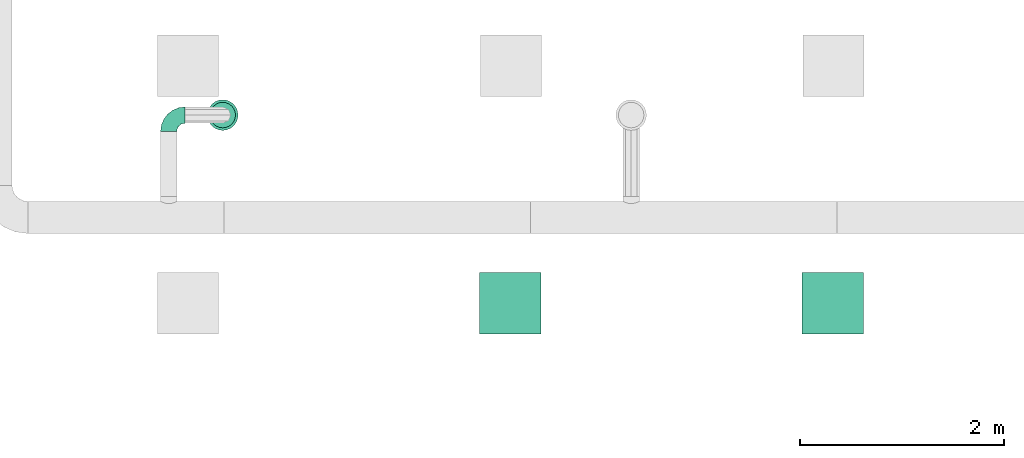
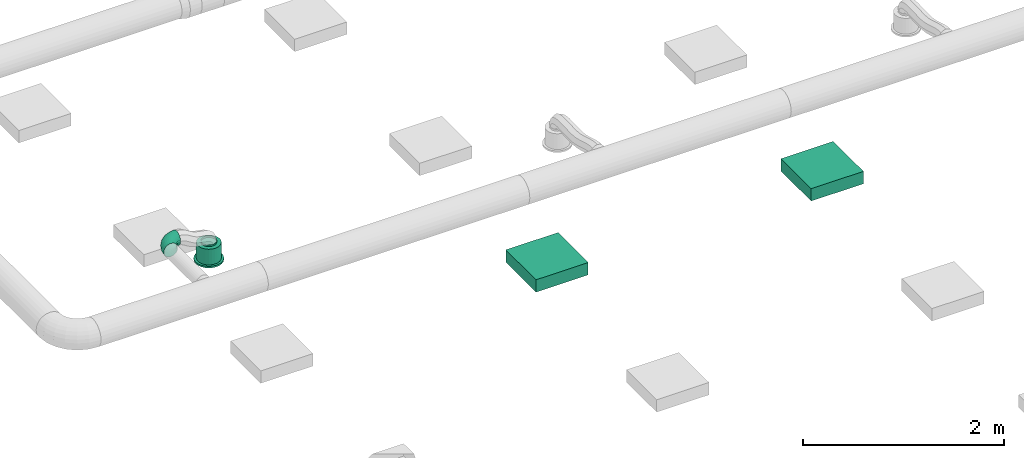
# One storey, part 22 of 119: 2 distribution elements, 1 flow fitting, 1 flow terminal.
"""IFC2X3 building model written with IfcOpenShell, lengths in metres."""

from ifc_helpers import new_model, si_unit, direction, frame, frame_2d, origin, place, context, subcontext, project, spatial, rectangle, extrude, open_shell, surface_model, source, transform, mapped, element, save


model = new_model("IFC2X3")

# Units and contexts
model_context = context("Model", 3, precision=1e-05, world=origin(), true_north=direction((-0.4480736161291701, 0.8939966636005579)))
body_context = subcontext(model_context, "Body", "Model", "MODEL_VIEW")
ifc_project = project(units=[si_unit("LENGTHUNIT", "METRE"), si_unit("AREAUNIT", "SQUARE_METRE"), si_unit("VOLUMEUNIT", "CUBIC_METRE"), si_unit("PLANEANGLEUNIT", "RADIAN"), si_unit("THERMODYNAMICTEMPERATUREUNIT", "KELVIN"), si_unit("MASSUNIT", "GRAM", prefix="KILO"), si_unit("TIMEUNIT", "SECOND")], contexts=[model_context])

# Site, building, storey
site_placement = place(None, origin())
site = spatial("IfcSite", under=ifc_project, at=site_placement, Name="Site 1", CompositionType="ELEMENT")
building_placement = place(site_placement, origin())
building = spatial("IfcBuilding", under=site, at=building_placement, Name="Undefined", CompositionType="ELEMENT")
storey_placement = place(building_placement, frame((0.0, 0.0, 5.4)))
storey = spatial("IfcBuildingStorey", under=building, at=storey_placement, Name="R+1", CompositionType="ELEMENT", Elevation=5.4)

# Flow terminal
shared_shape_1 = source(origin(), body_context, "Body", "SurfaceModel", [
    surface_model("IfcFaceBasedSurfaceModel", [(0.0, 0.0, 0.0), (0.03915785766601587, 0.0, 0.0), (0.03915785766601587, 0.020000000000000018, 0.0), (3.552713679e-15, 0.020000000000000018, 0.0), (0.07698144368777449, 0.0, -0.010134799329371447), (0.07698144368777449, 0.020000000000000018, -0.010134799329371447), (0.11089314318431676, 0.0, -0.02971372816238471), (0.11089314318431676, 0.020000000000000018, -0.02971372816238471), (0.13858192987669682, 0.0, -0.05740251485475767), (0.13858192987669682, 0.020000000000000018, -0.05740251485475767), (0.15816085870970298, 0.0, -0.09131421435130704), (0.15816085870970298, 0.020000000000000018, -0.09131421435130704), (0.16829565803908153, 0.0, -0.12913780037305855), (0.16829565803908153, 0.020000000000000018, -0.12913780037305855), (0.16829565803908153, 0.0, -0.16829565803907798), (0.16829565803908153, 0.020000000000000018, -0.16829565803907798), (0.15816085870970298, 0.0, -0.20611924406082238), (0.15816085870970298, 0.020000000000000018, -0.20611924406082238), (0.13858192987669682, 0.0, -0.24003094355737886), (0.13858192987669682, 0.020000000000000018, -0.24003094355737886), (0.11089314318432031, 0.0, -0.2677197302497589), (0.11089314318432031, 0.020000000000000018, -0.2677197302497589), (0.07698144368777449, 0.0, -0.2872986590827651), (0.07698144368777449, 0.020000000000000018, -0.2872986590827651), (0.039157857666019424, 0.0, -0.29743345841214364), (0.039157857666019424, 0.020000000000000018, -0.29743345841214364), (3.552713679e-15, 0.0, -0.29743345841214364), (3.552713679e-15, 0.020000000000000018, -0.29743345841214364), (-0.03782358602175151, 0.0, -0.2872986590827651), (-0.03782358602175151, 0.020000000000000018, -0.2872986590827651), (-0.07173528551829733, 0.0, -0.2677197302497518), (-0.07173528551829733, 0.020000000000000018, -0.2677197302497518), (-0.0994240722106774, 0.0, -0.24003094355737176), (-0.0994240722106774, 0.020000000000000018, -0.24003094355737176), (-0.11900300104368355, 0.0, -0.2061192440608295), (-0.11900300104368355, 0.020000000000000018, -0.2061192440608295), (-0.1291378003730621, 0.0, -0.16829565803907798), (-0.1291378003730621, 0.020000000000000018, -0.16829565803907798), (-0.1291378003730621, 0.0, -0.12913780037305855), (-0.1291378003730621, 0.020000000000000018, -0.12913780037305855), (-0.11900300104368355, 0.0, -0.09131421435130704), (-0.11900300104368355, 0.020000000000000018, -0.09131421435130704), (-0.0994240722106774, 0.0, -0.05740251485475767), (-0.0994240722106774, 0.020000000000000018, -0.05740251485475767), (-0.07173528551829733, 0.0, -0.029713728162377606), (-0.07173528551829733, 0.020000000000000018, -0.029713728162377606), (-0.03782358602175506, 0.0, -0.010134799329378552), (-0.03782358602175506, 0.020000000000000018, -0.010134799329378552), (0.019578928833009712, 0.0, -0.14871672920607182), (0.019578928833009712, 0.020000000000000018, -0.14871672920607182), (0.003263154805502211, 0.020000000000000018, -0.02478612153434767), (0.035894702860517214, 0.020000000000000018, -0.02478612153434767), (0.035894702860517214, 0.20999999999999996, -0.02478612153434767), (0.003263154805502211, 0.20999999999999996, -0.02478612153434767), (0.06741435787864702, 0.020000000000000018, -0.033231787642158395), (0.06741435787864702, 0.20999999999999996, -0.033231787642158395), (0.0956741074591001, 0.020000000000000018, -0.04954756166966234), (0.0956741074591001, 0.20999999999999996, -0.04954756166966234), (0.11874809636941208, 0.020000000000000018, -0.07262155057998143), (0.11874809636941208, 0.20999999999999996, -0.07262155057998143), (0.13506387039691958, 0.020000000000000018, -0.10088130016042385), (0.13506387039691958, 0.20999999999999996, -0.10088130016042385), (0.1435095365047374, 0.020000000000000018, -0.13240095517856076), (0.1435095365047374, 0.20999999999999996, -0.13240095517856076), (0.1435095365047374, 0.020000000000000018, -0.16503250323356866), (0.1435095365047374, 0.20999999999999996, -0.16503250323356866), (0.13506387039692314, 0.020000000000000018, -0.19655215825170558), (0.13506387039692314, 0.20999999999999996, -0.19655215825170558), (0.11874809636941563, 0.020000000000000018, -0.2248119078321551), (0.11874809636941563, 0.20999999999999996, -0.2248119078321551), (0.09567410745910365, 0.020000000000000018, -0.24788589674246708), (0.09567410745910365, 0.20999999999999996, -0.24788589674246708), (0.06741435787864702, 0.020000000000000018, -0.26420167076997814), (0.06741435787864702, 0.20999999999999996, -0.26420167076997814), (0.035894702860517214, 0.020000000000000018, -0.27264733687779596), (0.035894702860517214, 0.20999999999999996, -0.27264733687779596), (0.0032631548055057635, 0.020000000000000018, -0.27264733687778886), (0.0032631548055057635, 0.20999999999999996, -0.27264733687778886), (-0.028256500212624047, 0.020000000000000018, -0.26420167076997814), (-0.028256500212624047, 0.20999999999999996, -0.26420167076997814), (-0.05651624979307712, 0.020000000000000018, -0.2478858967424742), (-0.05651624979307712, 0.20999999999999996, -0.2478858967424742), (-0.07959023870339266, 0.020000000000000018, -0.2248119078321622), (-0.07959023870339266, 0.20999999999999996, -0.2248119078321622), (-0.09590601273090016, 0.020000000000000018, -0.19655215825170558), (-0.09590601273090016, 0.20999999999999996, -0.19655215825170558), (-0.10435167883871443, 0.020000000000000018, -0.16503250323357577), (-0.10435167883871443, 0.20999999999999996, -0.16503250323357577), (-0.10435167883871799, 0.020000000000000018, -0.13240095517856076), (-0.10435167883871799, 0.20999999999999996, -0.13240095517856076), (-0.09590601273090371, 0.020000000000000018, -0.10088130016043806), (-0.09590601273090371, 0.20999999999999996, -0.10088130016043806), (-0.07959023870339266, 0.020000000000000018, -0.07262155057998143), (-0.07959023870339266, 0.20999999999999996, -0.07262155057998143), (-0.056516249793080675, 0.020000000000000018, -0.04954756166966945), (-0.056516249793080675, 0.20999999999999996, -0.04954756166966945), (-0.028256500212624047, 0.020000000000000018, -0.033231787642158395), (-0.028256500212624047, 0.20999999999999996, -0.033231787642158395), (0.019578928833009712, 0.20999999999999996, -0.14871672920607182), (0.009136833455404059, 0.20999999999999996, -0.06940114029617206), (0.030021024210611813, 0.20999999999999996, -0.06940114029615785), (0.030021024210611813, 0.22999999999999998, -0.06940114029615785), (0.009136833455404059, 0.22999999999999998, -0.06940114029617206), (0.05019360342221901, 0.20999999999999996, -0.07480636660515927), (0.05019360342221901, 0.22999999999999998, -0.07480636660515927), (0.06827984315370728, 0.20999999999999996, -0.08524846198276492), (0.06827984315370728, 0.22999999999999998, -0.08524846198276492), (0.0830471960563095, 0.20999999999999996, -0.10001581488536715), (0.0830471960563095, 0.22999999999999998, -0.10001581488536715), (0.0934892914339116, 0.20999999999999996, -0.11810205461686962), (0.0934892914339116, 0.22999999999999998, -0.11810205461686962), (0.09889451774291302, 0.20999999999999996, -0.13827463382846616), (0.09889451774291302, 0.22999999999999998, -0.13827463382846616), (0.09889451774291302, 0.20999999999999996, -0.15915882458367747), (0.09889451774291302, 0.22999999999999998, -0.15915882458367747), (0.09348929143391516, 0.20999999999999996, -0.179331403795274), (0.09348929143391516, 0.22999999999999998, -0.179331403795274), (0.0830471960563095, 0.20999999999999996, -0.19741764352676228), (0.0830471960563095, 0.22999999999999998, -0.19741764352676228), (0.06827984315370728, 0.20999999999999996, -0.2121849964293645), (0.06827984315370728, 0.22999999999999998, -0.2121849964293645), (0.05019360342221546, 0.20999999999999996, -0.22262709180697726), (0.05019360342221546, 0.22999999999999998, -0.22262709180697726), (0.030021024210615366, 0.20999999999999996, -0.22803231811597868), (0.030021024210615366, 0.22999999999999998, -0.22803231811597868), (0.009136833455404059, 0.20999999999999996, -0.22803231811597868), (0.009136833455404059, 0.22999999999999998, -0.22803231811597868), (-0.011035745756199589, 0.20999999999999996, -0.22262709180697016), (-0.011035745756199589, 0.22999999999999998, -0.22262709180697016), (-0.0291219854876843, 0.20999999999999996, -0.2121849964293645), (-0.0291219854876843, 0.22999999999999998, -0.2121849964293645), (-0.043889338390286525, 0.20999999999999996, -0.19741764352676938), (-0.043889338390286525, 0.22999999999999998, -0.19741764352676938), (-0.05433143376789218, 0.20999999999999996, -0.17933140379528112), (-0.05433143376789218, 0.22999999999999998, -0.17933140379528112), (-0.05973666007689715, 0.20999999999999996, -0.15915882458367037), (-0.05973666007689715, 0.22999999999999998, -0.15915882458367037), (-0.0597366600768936, 0.20999999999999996, -0.13827463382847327), (-0.0597366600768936, 0.22999999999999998, -0.13827463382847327), (-0.05433143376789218, 0.20999999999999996, -0.11810205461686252), (-0.05433143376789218, 0.22999999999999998, -0.11810205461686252), (-0.043889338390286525, 0.20999999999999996, -0.10001581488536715), (-0.043889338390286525, 0.22999999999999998, -0.10001581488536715), (-0.02912198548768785, 0.20999999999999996, -0.08524846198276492), (-0.02912198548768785, 0.22999999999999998, -0.08524846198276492), (-0.011035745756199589, 0.20999999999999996, -0.07480636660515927), (-0.011035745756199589, 0.22999999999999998, -0.07480636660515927)], [open_shell([[[0, 1, 2, 3]], [[1, 4, 5, 2]], [[4, 6, 7, 5]], [[6, 8, 9, 7]], [[8, 10, 11, 9]], [[10, 12, 13, 11]], [[12, 14, 15, 13]], [[14, 16, 17, 15]], [[16, 18, 19, 17]], [[18, 20, 21, 19]], [[20, 22, 23, 21]], [[22, 24, 25, 23]], [[24, 26, 27, 25]], [[26, 28, 29, 27]], [[28, 30, 31, 29]], [[30, 32, 33, 31]], [[32, 34, 35, 33]], [[34, 36, 37, 35]], [[36, 38, 39, 37]], [[38, 40, 41, 39]], [[40, 42, 43, 41]], [[42, 44, 45, 43]], [[44, 46, 47, 45]], [[46, 0, 3, 47]], [[48, 1, 0]], [[48, 4, 1]], [[48, 6, 4]], [[48, 8, 6]], [[48, 10, 8]], [[48, 12, 10]], [[48, 14, 12]], [[48, 16, 14]], [[48, 18, 16]], [[48, 20, 18]], [[48, 22, 20]], [[48, 24, 22]], [[48, 26, 24]], [[48, 28, 26]], [[48, 30, 28]], [[48, 32, 30]], [[48, 34, 32]], [[48, 36, 34]], [[48, 38, 36]], [[48, 40, 38]], [[48, 42, 40]], [[48, 44, 42]], [[48, 46, 44]], [[48, 0, 46]], [[49, 47, 3]], [[49, 45, 47]], [[49, 43, 45]], [[49, 41, 43]], [[49, 39, 41]], [[49, 37, 39]], [[49, 35, 37]], [[49, 33, 35]], [[49, 31, 33]], [[49, 29, 31]], [[49, 27, 29]], [[49, 25, 27]], [[49, 23, 25]], [[49, 21, 23]], [[49, 19, 21]], [[49, 17, 19]], [[49, 15, 17]], [[49, 13, 15]], [[49, 11, 13]], [[49, 9, 11]], [[49, 7, 9]], [[49, 5, 7]], [[49, 2, 5]], [[49, 3, 2]], [[50, 51, 52, 53]], [[51, 54, 55, 52]], [[54, 56, 57, 55]], [[56, 58, 59, 57]], [[58, 60, 61, 59]], [[60, 62, 63, 61]], [[62, 64, 65, 63]], [[64, 66, 67, 65]], [[66, 68, 69, 67]], [[68, 70, 71, 69]], [[70, 72, 73, 71]], [[72, 74, 75, 73]], [[74, 76, 77, 75]], [[76, 78, 79, 77]], [[78, 80, 81, 79]], [[80, 82, 83, 81]], [[82, 84, 85, 83]], [[84, 86, 87, 85]], [[86, 88, 89, 87]], [[88, 90, 91, 89]], [[90, 92, 93, 91]], [[92, 94, 95, 93]], [[94, 96, 97, 95]], [[96, 50, 53, 97]], [[49, 51, 50]], [[49, 54, 51]], [[49, 56, 54]], [[49, 58, 56]], [[49, 60, 58]], [[49, 62, 60]], [[49, 64, 62]], [[49, 66, 64]], [[49, 68, 66]], [[49, 70, 68]], [[49, 72, 70]], [[49, 74, 72]], [[49, 76, 74]], [[49, 78, 76]], [[49, 80, 78]], [[49, 82, 80]], [[49, 84, 82]], [[49, 86, 84]], [[49, 88, 86]], [[49, 90, 88]], [[49, 92, 90]], [[49, 94, 92]], [[49, 96, 94]], [[49, 50, 96]], [[98, 97, 53]], [[98, 95, 97]], [[98, 93, 95]], [[98, 91, 93]], [[98, 89, 91]], [[98, 87, 89]], [[98, 85, 87]], [[98, 83, 85]], [[98, 81, 83]], [[98, 79, 81]], [[98, 77, 79]], [[98, 75, 77]], [[98, 73, 75]], [[98, 71, 73]], [[98, 69, 71]], [[98, 67, 69]], [[98, 65, 67]], [[98, 63, 65]], [[98, 61, 63]], [[98, 59, 61]], [[98, 57, 59]], [[98, 55, 57]], [[98, 52, 55]], [[98, 53, 52]], [[99, 100, 101, 102]], [[100, 103, 104, 101]], [[103, 105, 106, 104]], [[105, 107, 108, 106]], [[107, 109, 110, 108]], [[109, 111, 112, 110]], [[111, 113, 114, 112]], [[113, 115, 116, 114]], [[115, 117, 118, 116]], [[117, 119, 120, 118]], [[119, 121, 122, 120]], [[121, 123, 124, 122]], [[123, 125, 126, 124]], [[125, 127, 128, 126]], [[127, 129, 130, 128]], [[129, 131, 132, 130]], [[131, 133, 134, 132]], [[133, 135, 136, 134]], [[135, 137, 138, 136]], [[137, 139, 140, 138]], [[139, 141, 142, 140]], [[141, 143, 144, 142]], [[143, 145, 146, 144]], [[145, 99, 102, 146]]])]),
])
flow_terminal_placement = place(storey_placement, origin())
element("IfcFlowTerminal", 1, at=flow_terminal_placement, inside=storey, Name="Air diffuseur - bouche", ObjectType="Air diffuseur - bouche", context=body_context, shape_type="MappedRepresentation", body=[
    mapped(shared_shape_1, transform((36.292700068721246, 16.804996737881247, 2.38), x_axis=(0.9914448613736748, 0.13052619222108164, 0.0), y_axis=(0.0, 0.0, 1.0), z_axis=(0.13052619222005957, -0.9914448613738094, 0.0))),
])

# Flow fitting
shared_shape_2 = source(origin(), body_context, "Body", "SurfaceModel", [
    surface_model("IfcFaceBasedSurfaceModel", [(0.06265257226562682, -8.8817842e-16, 0.0), (0.062296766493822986, 0.02088115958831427, -7.105427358e-15), (0.0003558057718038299, 0.020881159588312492, 7.105427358e-15), (0.0, 0.0, 0.0), (-0.059474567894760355, 0.022956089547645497, -0.015896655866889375), (-0.06051773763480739, 0.002098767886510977, -0.01607928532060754), (-0.11311701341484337, 0.02696454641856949, -0.04660663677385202), (-0.11477645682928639, 0.006153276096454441, -0.04714207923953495), (-0.15691588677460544, 0.0326333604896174, -0.09003710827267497), (-0.15907851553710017, 0.01188721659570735, -0.09107150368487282), (-0.18788636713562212, 0.03957621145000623, -0.14322835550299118), (-0.1904048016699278, 0.01890983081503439, -0.14487384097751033), (-0.2039178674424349, 0.04731995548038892, -0.20255548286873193), (-0.20662048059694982, 0.026742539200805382, -0.20488255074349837), (0.061253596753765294, 0.04103889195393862, -0.0053597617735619), (0.0013989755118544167, 0.04103889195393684, -0.005359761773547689), (-0.05641614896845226, 0.04304393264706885, -0.02072097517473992), (-0.10825177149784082, 0.04691737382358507, -0.050396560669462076), (-0.15057538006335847, 0.05239524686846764, -0.09236417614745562), (-0.18050269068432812, 0.05910424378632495, -0.14376379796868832), (-0.19599420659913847, 0.06658715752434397, -0.20109262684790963), (0.05959415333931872, 0.05909948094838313, -0.01571402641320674), (0.003058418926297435, 0.05909948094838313, -0.01571402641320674), (-0.05155090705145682, 0.06099334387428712, -0.030223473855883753), (-0.10051228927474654, 0.06465200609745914, -0.058253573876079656), (-0.1404890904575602, 0.0698261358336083, -0.09789412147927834), (-0.16875695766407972, 0.0761631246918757, -0.14644367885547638), (-0.18338948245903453, 0.08323111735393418, -0.2005936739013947), (0.057431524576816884, 0.07383212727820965, -0.030357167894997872), (0.005221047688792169, 0.07383212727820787, -0.03035716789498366), (-0.0452104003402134, 0.07558110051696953, -0.04375657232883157), (-0.09042599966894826, 0.07895985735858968, -0.06964223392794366), (-0.12734438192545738, 0.08373814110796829, -0.10625008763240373), (-0.15344962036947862, 0.08959031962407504, -0.15108536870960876), (-0.16696268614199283, 0.0961175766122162, -0.20109262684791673), (0.054913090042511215, 0.0842328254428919, -0.048291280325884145), (0.007739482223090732, 0.08423282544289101, -0.04829128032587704), (-0.037826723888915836, 0.08581307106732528, -0.06039801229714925), (-0.07868026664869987, 0.08886587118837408, -0.08378642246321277), (-0.11203704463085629, 0.09318318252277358, -0.11686262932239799), (-0.13562384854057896, 0.09847078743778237, -0.1573725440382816), (-0.14783327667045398, 0.10436834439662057, -0.20255548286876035), (0.05221047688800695, 0.0895927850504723, -0.06829418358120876), (0.010442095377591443, 0.08959278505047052, -0.06829418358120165), (-0.029903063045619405, 0.09099196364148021, -0.07901370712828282), (-0.06607554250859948, 0.09369496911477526, -0.0997222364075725), (-0.0956102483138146, 0.0975175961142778, -0.12900851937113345), (-0.11649443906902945, 0.10219933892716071, -0.16487674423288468), (-0.12730489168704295, 0.1074211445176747, -0.2048825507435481), (0.04950786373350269, 0.08954673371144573, -0.08900271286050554), (0.013144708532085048, 0.08954673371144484, -0.08900271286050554), (-0.02197940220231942, 0.09076484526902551, -0.09833502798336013), (-0.05347081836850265, 0.09311805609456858, -0.11636367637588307), (-0.0791834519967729, 0.09644599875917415, -0.14186003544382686), (-0.09736502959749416, 0.10052187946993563, -0.17308657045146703), (-0.10677650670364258, 0.1050679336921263, -0.20791524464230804), (0.04698942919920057, 0.08409780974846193, -0.10900561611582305), (0.015663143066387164, 0.08409780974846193, -0.10900561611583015), (-0.014595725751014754, 0.08514719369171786, -0.11704525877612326), (-0.0417250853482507, 0.0871744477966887, -0.13257665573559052), (-0.06387611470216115, 0.09004141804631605, -0.15454136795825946), (-0.07953925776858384, 0.09355272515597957, -0.1814425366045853), (-0.08764709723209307, 0.09746907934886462, -0.21144689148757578), (0.04482680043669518, 0.0736173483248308, -0.12693972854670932), (0.017825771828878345, 0.0736173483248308, -0.12693972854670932), (-0.008255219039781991, 0.07452184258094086, -0.13386932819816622), (-0.03163879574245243, 0.0762691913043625, -0.14725628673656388), (-0.050731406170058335, 0.07874031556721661, -0.1661883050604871), (-0.06423192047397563, 0.08176681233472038, -0.18937519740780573), (-0.07122030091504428, 0.08514243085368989, -0.21523681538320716), (0.04316735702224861, 0.058819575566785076, -0.14158287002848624), (0.019485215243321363, 0.058819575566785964, -0.14158287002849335), (-0.0033899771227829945, 0.05961289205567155, -0.14766070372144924), (-0.02389931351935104, 0.06114546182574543, -0.15940217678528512), (-0.04064511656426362, 0.06331284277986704, -0.17600712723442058), (-0.052486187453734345, 0.06596733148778, -0.19634395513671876), (-0.05861557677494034, 0.06892802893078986, -0.2190267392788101), (0.04212418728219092, 0.040712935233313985, -0.15193713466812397), (0.020528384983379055, 0.040712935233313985, -0.15193713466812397), (-0.0003315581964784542, 0.041436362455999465, -0.15747952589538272), (-0.019034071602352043, 0.04283391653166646, -0.16818660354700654), (-0.03430460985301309, 0.04481035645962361, -0.1833286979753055), (-0.04510251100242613, 0.047230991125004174, -0.20187390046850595), (-0.05069191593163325, 0.04993085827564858, -0.22255838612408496), (0.04176838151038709, 0.02053136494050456, -0.15729689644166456), (0.020884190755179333, 0.02053136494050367, -0.15729689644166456), (0.0007116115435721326, 0.021230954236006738, -0.16265665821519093), (-0.017374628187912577, 0.022582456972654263, -0.17301092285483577), (-0.03214198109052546, 0.024493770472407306, -0.1876540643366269), (-0.042584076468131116, 0.026834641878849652, -0.20558817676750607), (-0.04798930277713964, 0.02944554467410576, -0.22559108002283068), (0.04212418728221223, -0.000349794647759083, -0.15729689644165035), (0.020528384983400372, -0.000349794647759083, -0.15729689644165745), (-0.0003315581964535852, 0.00037363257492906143, -0.1628392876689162), (-0.019034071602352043, 0.0017711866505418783, -0.17354636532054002), (-0.03430460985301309, 0.0037476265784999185, -0.18868845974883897), (-0.04510251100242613, 0.00616826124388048, -0.20723366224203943), (-0.05069191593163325, 0.008868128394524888, -0.22791814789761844), (0.04316735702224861, -0.020507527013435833, -0.15193713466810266), (0.019485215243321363, -0.020507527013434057, -0.15193713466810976), (-0.0033899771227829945, -0.019714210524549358, -0.15801496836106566), (-0.02389931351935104, -0.01818164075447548, -0.16975644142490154), (-0.04064511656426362, -0.01601425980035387, -0.186361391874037), (-0.052486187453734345, -0.013359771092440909, -0.20669821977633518), (-0.05861557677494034, -0.010399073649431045, -0.22938100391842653), (0.04482680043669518, -0.03856811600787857, -0.1415828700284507), (0.017825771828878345, -0.03856811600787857, -0.1415828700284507), (-0.008255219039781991, -0.03766362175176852, -0.1485124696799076), (-0.03163879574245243, -0.03591627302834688, -0.16189942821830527), (-0.050731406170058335, -0.03344514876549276, -0.1808314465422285), (-0.06423192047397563, -0.030418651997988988, -0.20401833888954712), (-0.07122030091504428, -0.027043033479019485, -0.22987995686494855), (0.04698942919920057, -0.05330076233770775, -0.12693972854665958), (0.015663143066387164, -0.05330076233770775, -0.12693972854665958), (-0.014595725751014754, -0.05225137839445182, -0.1349793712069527), (-0.0417250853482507, -0.05022412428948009, -0.15051076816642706), (-0.06387611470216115, -0.047357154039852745, -0.172475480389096), (-0.07953925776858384, -0.043845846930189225, -0.19937664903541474), (-0.08764709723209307, -0.03992949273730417, -0.2293810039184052), (0.04950786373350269, -0.06370146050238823, -0.10900561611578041), (0.013144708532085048, -0.06370146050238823, -0.10900561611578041), (-0.02197940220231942, -0.06248334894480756, -0.11833793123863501), (-0.05347081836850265, -0.06013013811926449, -0.13636657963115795), (-0.0791834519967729, -0.05680219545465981, -0.16186293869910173), (-0.09736502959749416, -0.05272631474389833, -0.1930894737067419), (-0.10677650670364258, -0.04818026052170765, -0.2279181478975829), (0.05221047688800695, -0.06906142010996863, -0.08900271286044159), (0.010442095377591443, -0.06906142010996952, -0.08900271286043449), (-0.029903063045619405, -0.06766224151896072, -0.09972223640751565), (-0.06607554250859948, -0.06495923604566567, -0.12043076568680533), (-0.0956102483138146, -0.06113660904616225, -0.14971704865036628), (-0.11649443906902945, -0.05645486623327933, -0.1855852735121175), (-0.12730489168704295, -0.05123306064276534, -0.22559108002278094), (0.054913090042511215, -0.06901536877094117, -0.06829418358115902), (0.007739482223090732, -0.06901536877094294, -0.06829418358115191), (-0.037826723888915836, -0.06743512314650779, -0.08040091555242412), (-0.07868026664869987, -0.06438232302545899, -0.10378932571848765), (-0.11203704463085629, -0.06006501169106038, -0.13686553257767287), (-0.13562384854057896, -0.0547774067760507, -0.17737544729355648), (-0.14783327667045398, -0.04887984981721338, -0.22255838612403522), (0.057431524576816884, -0.06356644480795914, -0.0482912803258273), (0.005221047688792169, -0.06356644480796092, -0.04829128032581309), (-0.0452104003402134, -0.061817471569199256, -0.0616906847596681), (-0.09042599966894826, -0.05843871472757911, -0.0875763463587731), (-0.12734438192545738, -0.05366043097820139, -0.12418420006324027), (-0.15344962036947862, -0.04780825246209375, -0.1690194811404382), (-0.16696268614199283, -0.041280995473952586, -0.21902673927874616), (0.05959415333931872, -0.05308598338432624, -0.030357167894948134), (0.003058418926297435, -0.05308598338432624, -0.030357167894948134), (-0.05155090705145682, -0.05119212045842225, -0.04486661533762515), (-0.10051228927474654, -0.04753345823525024, -0.07289671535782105), (-0.1404890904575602, -0.04235932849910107, -0.11253726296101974), (-0.16875695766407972, -0.03602233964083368, -0.16108682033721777), (-0.18338948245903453, -0.02895434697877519, -0.2152368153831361), (0.061253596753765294, -0.03828821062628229, -0.015714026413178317), (0.0013989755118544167, -0.03828821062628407, -0.015714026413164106), (-0.05641614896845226, -0.03628316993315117, -0.031075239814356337), (-0.10825177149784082, -0.03240972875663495, -0.06075082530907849), (-0.15057538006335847, -0.026931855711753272, -0.10271844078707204), (-0.18050269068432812, -0.02022285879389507, -0.15411806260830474), (-0.19599420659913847, -0.012739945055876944, -0.21144689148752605), (0.062296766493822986, -0.020181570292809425, -0.005359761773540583), (0.0003558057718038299, -0.020181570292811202, -0.0053597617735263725), (-0.059474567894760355, -0.018106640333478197, -0.021256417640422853), (-0.11311701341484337, -0.014098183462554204, -0.051966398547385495), (-0.15691588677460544, -0.00842936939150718, -0.09539687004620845), (-0.18788636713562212, -0.0014865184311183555, -0.14858811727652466), (-0.2039178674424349, 0.006257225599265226, -0.2079152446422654)], [open_shell([[[0, 1, 2, 3]], [[3, 2, 4, 5]], [[5, 4, 6, 7]], [[7, 6, 8, 9]], [[9, 8, 10, 11]], [[11, 10, 12, 13]], [[1, 14, 15, 2]], [[2, 15, 16, 4]], [[4, 16, 17, 6]], [[6, 17, 18, 8]], [[8, 18, 19, 10]], [[10, 19, 20, 12]], [[14, 21, 22, 15]], [[15, 22, 23, 16]], [[16, 23, 24, 17]], [[17, 24, 25, 18]], [[18, 25, 26, 19]], [[19, 26, 27, 20]], [[21, 28, 29, 22]], [[22, 29, 30, 23]], [[23, 30, 31, 24]], [[24, 31, 32, 25]], [[25, 32, 33, 26]], [[26, 33, 34, 27]], [[28, 35, 36, 29]], [[29, 36, 37, 30]], [[30, 37, 38, 31]], [[31, 38, 39, 32]], [[32, 39, 40, 33]], [[33, 40, 41, 34]], [[35, 42, 43, 36]], [[36, 43, 44, 37]], [[37, 44, 45, 38]], [[38, 45, 46, 39]], [[39, 46, 47, 40]], [[40, 47, 48, 41]], [[42, 49, 50, 43]], [[43, 50, 51, 44]], [[44, 51, 52, 45]], [[45, 52, 53, 46]], [[46, 53, 54, 47]], [[47, 54, 55, 48]], [[49, 56, 57, 50]], [[50, 57, 58, 51]], [[51, 58, 59, 52]], [[52, 59, 60, 53]], [[53, 60, 61, 54]], [[54, 61, 62, 55]], [[56, 63, 64, 57]], [[57, 64, 65, 58]], [[58, 65, 66, 59]], [[59, 66, 67, 60]], [[60, 67, 68, 61]], [[61, 68, 69, 62]], [[63, 70, 71, 64]], [[64, 71, 72, 65]], [[65, 72, 73, 66]], [[66, 73, 74, 67]], [[67, 74, 75, 68]], [[68, 75, 76, 69]], [[70, 77, 78, 71]], [[71, 78, 79, 72]], [[72, 79, 80, 73]], [[73, 80, 81, 74]], [[74, 81, 82, 75]], [[75, 82, 83, 76]], [[77, 84, 85, 78]], [[78, 85, 86, 79]], [[79, 86, 87, 80]], [[80, 87, 88, 81]], [[81, 88, 89, 82]], [[82, 89, 90, 83]], [[84, 91, 92, 85]], [[85, 92, 93, 86]], [[86, 93, 94, 87]], [[87, 94, 95, 88]], [[88, 95, 96, 89]], [[89, 96, 97, 90]], [[91, 98, 99, 92]], [[92, 99, 100, 93]], [[93, 100, 101, 94]], [[94, 101, 102, 95]], [[95, 102, 103, 96]], [[96, 103, 104, 97]], [[98, 105, 106, 99]], [[99, 106, 107, 100]], [[100, 107, 108, 101]], [[101, 108, 109, 102]], [[102, 109, 110, 103]], [[103, 110, 111, 104]], [[105, 112, 113, 106]], [[106, 113, 114, 107]], [[107, 114, 115, 108]], [[108, 115, 116, 109]], [[109, 116, 117, 110]], [[110, 117, 118, 111]], [[112, 119, 120, 113]], [[113, 120, 121, 114]], [[114, 121, 122, 115]], [[115, 122, 123, 116]], [[116, 123, 124, 117]], [[117, 124, 125, 118]], [[119, 126, 127, 120]], [[120, 127, 128, 121]], [[121, 128, 129, 122]], [[122, 129, 130, 123]], [[123, 130, 131, 124]], [[124, 131, 132, 125]], [[126, 133, 134, 127]], [[127, 134, 135, 128]], [[128, 135, 136, 129]], [[129, 136, 137, 130]], [[130, 137, 138, 131]], [[131, 138, 139, 132]], [[133, 140, 141, 134]], [[134, 141, 142, 135]], [[135, 142, 143, 136]], [[136, 143, 144, 137]], [[137, 144, 145, 138]], [[138, 145, 146, 139]], [[140, 147, 148, 141]], [[141, 148, 149, 142]], [[142, 149, 150, 143]], [[143, 150, 151, 144]], [[144, 151, 152, 145]], [[145, 152, 153, 146]], [[147, 154, 155, 148]], [[148, 155, 156, 149]], [[149, 156, 157, 150]], [[150, 157, 158, 151]], [[151, 158, 159, 152]], [[152, 159, 160, 153]], [[154, 161, 162, 155]], [[155, 162, 163, 156]], [[156, 163, 164, 157]], [[157, 164, 165, 158]], [[158, 165, 166, 159]], [[159, 166, 167, 160]], [[161, 0, 3, 162]], [[162, 3, 5, 163]], [[163, 5, 7, 164]], [[164, 7, 9, 165]], [[165, 9, 11, 166]], [[166, 11, 13, 167]]])]),
])
flow_fitting_placement = place(storey_placement, origin())
element("IfcFlowFitting", 2, at=flow_fitting_placement, inside=storey, Name="Coude", ObjectType="Coude", context=body_context, shape_type="MappedRepresentation", body=[
    mapped(shared_shape_2, transform((35.692036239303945, 16.857113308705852, 2.775), x_axis=(-0.13052619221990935, -0.9914448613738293, 0.0), y_axis=(0.12832103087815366, -0.01689378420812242, 0.9915887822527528), z_axis=(-0.9831056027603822, 0.12942830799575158, 0.129428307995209))),
])

# Distribution elements
distribution_element_1_placement = place(storey_placement, origin())
element("IfcDistributionElement", 3, at=distribution_element_1_placement, inside=storey, Name="Decken-Rechteckleuchte mit Rahmen AP", ObjectType="Decken-Rechteckleuchte mit Rahmen AP", context=body_context, shape_type="SweptSolid", body=[
    extrude(rectangle(XDim=0.6000000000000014, YDim=0.6000000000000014, at=frame_2d((3.552713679e-15, 0.0), x_axis=(0.0, 1.0))), frame((39.109652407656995, 15.1125, 2.5500000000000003), z_axis=(0.0, 0.0, -1.0), x_axis=(1.0, 0.0, 0.0)), (0.0, 0.0, 1.0), 0.15),
])
distribution_element_2_placement = place(storey_placement, origin())
element("IfcDistributionElement", 4, at=distribution_element_2_placement, inside=storey, Name="Decken-Rechteckleuchte mit Rahmen AP", ObjectType="Decken-Rechteckleuchte mit Rahmen AP", context=body_context, shape_type="SweptSolid", body=[
    extrude(rectangle(XDim=0.6000000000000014, YDim=0.6000000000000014, at=frame_2d((3.552713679e-15, 0.0), x_axis=(0.0, 1.0))), frame((42.26749470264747, 15.1125, 2.5500000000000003), z_axis=(0.0, 0.0, -1.0), x_axis=(1.0, 0.0, 0.0)), (0.0, 0.0, 1.0), 0.15),
])

save(model, "model.ifc")
